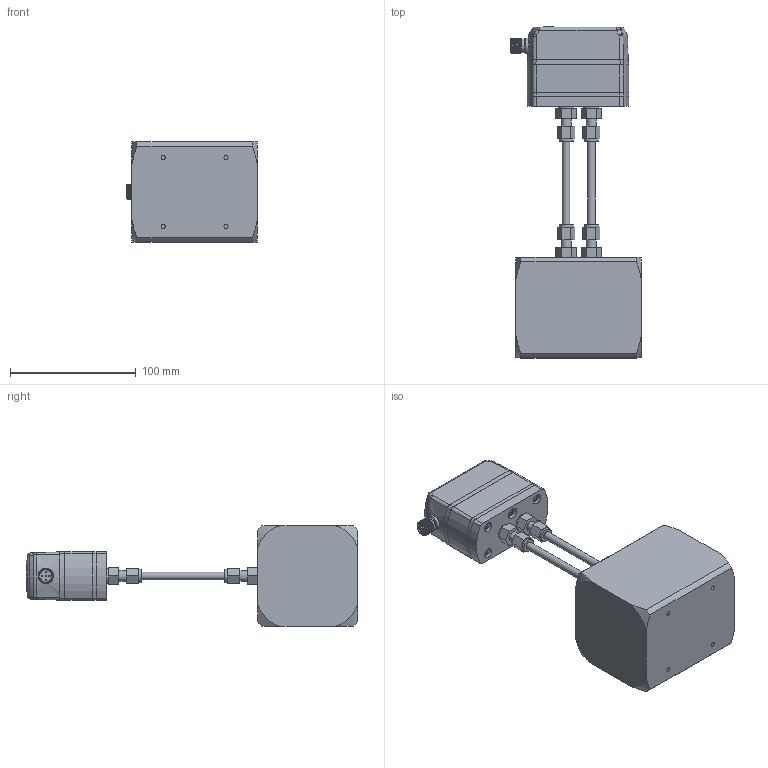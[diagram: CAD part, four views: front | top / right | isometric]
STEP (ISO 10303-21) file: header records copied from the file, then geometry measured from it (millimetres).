
FILE_DESCRIPTION( (''), '2;1');
FILE_NAME( 'QEKH_DN50_female-thread_high-temp.step', '2025-04-28T16:15:18+08:00', (''), (''), '', '', '');
FILE_SCHEMA (('AUTOMOTIVE_DESIGN { 1 0 10303 214 3 1 1 1 }'));
Products named in the file (1): QEKH DN50_female-thread_high-temp
Bounding box: 104.21 x 264.4 x 80 mm (x, y, z)
Volume: 844723.3 mm3; surface area: 128454.1 mm2
Topology: 30 solids, 33 shells, 1606 faces, 3948 edges, 2528 vertices
Faces by surface type: plane 805, cylinder 301, extrusion 239, cone 152, torus 52, bspline 48, sphere 9
Full cylindrical faces by diameter (mm): 1 x10, 2.05 x4, 2.6 x4, 2.7 x5, 2.874 x4, 3 x6, 3.1 x1, 3.3 x10, 3.5 x7, 3.838 x6, 4.5 x12, 5 x2, 5.5 x10, 6 x6, 7 x6, 8 x8, 9 x2, 9.8 x2, 10.8 x1, 11 x4, 11.992 x2, 12 x14, 14 x2, 14.5 x2, 17 x2, 19.1 x6
Entity records: 52889 total; most frequent: CARTESIAN_POINT 16739, ORIENTED_EDGE 7268, DIRECTION 6637, EDGE_CURVE 3634, VERTEX_POINT 2456, VECTOR 2239, AXIS2_PLACEMENT_3D 2199, EDGE_LOOP 2018
